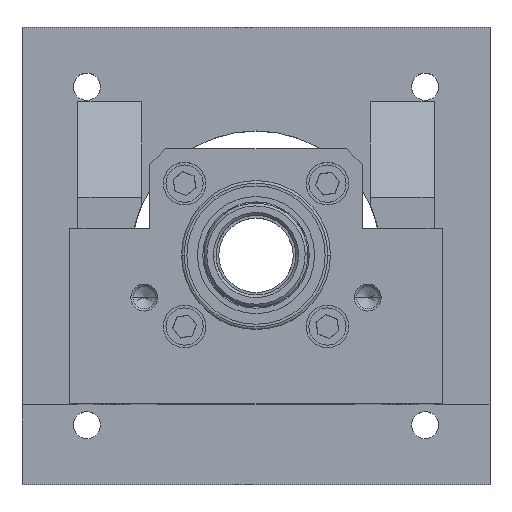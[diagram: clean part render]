
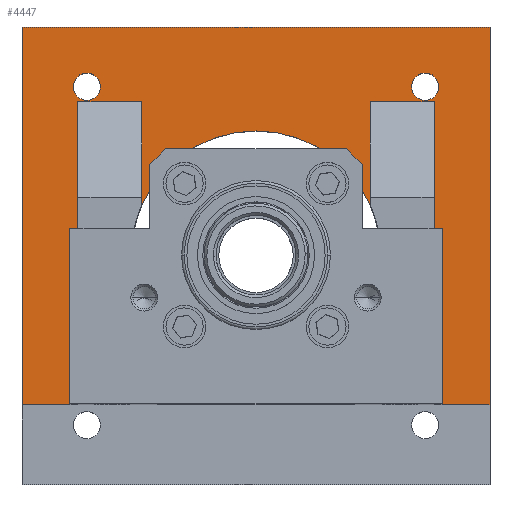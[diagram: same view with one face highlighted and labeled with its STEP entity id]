
A CAD part, top view. The second image highlights one B-rep face of the part: STEP entity #4447.
In plain terms, the highlighted planar face has unit normal (0, 0, 1).
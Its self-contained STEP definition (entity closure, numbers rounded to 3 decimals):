
#15 = CARTESIAN_POINT ( 'NONE',  ( -21.5, 4., -90. ) ) ;
#43 = AXIS2_PLACEMENT_3D ( 'NONE', #3079, #10730, #4167 ) ;
#122 = EDGE_CURVE ( 'NONE', #3607, #11266, #8755, .T. ) ;
#166 = LINE ( 'NONE', #5212, #11433 ) ;
#222 = DIRECTION ( 'NONE',  ( 1., 0., 0. ) ) ;
#224 = CARTESIAN_POINT ( 'NONE',  ( 33.5, -28., -90. ) ) ;
#288 = DIRECTION ( 'NONE',  ( 0., 0., 1. ) ) ;
#423 = VERTEX_POINT ( 'NONE', #11117 ) ;
#461 = CARTESIAN_POINT ( 'NONE',  ( -33.5, 29., -90. ) ) ;
#481 = CIRCLE ( 'NONE', #7280, 23.5 ) ;
#599 = EDGE_CURVE ( 'NONE', #4731, #2949, #481, .T. ) ;
#616 = CARTESIAN_POINT ( 'NONE',  ( 34.37, 31.82, -90. ) ) ;
#737 = FACE_OUTER_BOUND ( 'NONE', #1565, .T. ) ;
#887 = PLANE ( 'NONE',  #43 ) ;
#908 = VECTOR ( 'NONE', #12568, 1000. ) ;
#951 = ORIENTED_EDGE ( 'NONE', *, *, #7401, .T. ) ;
#985 = AXIS2_PLACEMENT_3D ( 'NONE', #6829, #288, #7951 ) ;
#1358 = VERTEX_POINT ( 'NONE', #2268 ) ;
#1380 = ORIENTED_EDGE ( 'NONE', *, *, #13454, .F. ) ;
#1441 = LINE ( 'NONE', #12707, #9840 ) ;
#1449 = ORIENTED_EDGE ( 'NONE', *, *, #5498, .T. ) ;
#1460 = CIRCLE ( 'NONE', #3128, 2.55 ) ;
#1517 = ORIENTED_EDGE ( 'NONE', *, *, #9359, .T. ) ;
#1540 = CARTESIAN_POINT ( 'NONE',  ( 44., -28., -90. ) ) ;
#1565 = EDGE_LOOP ( 'NONE', ( #13240, #5998, #12875, #1449, #1517, #10505, #1653, #6654, #4535, #951, #1380, #8035 ) ) ;
#1653 = ORIENTED_EDGE ( 'NONE', *, *, #2698, .F. ) ;
#2030 = VECTOR ( 'NONE', #7673, 1000. ) ;
#2065 = CARTESIAN_POINT ( 'NONE',  ( 33.5, 4., -90. ) ) ;
#2094 = VERTEX_POINT ( 'NONE', #5130 ) ;
#2160 = DIRECTION ( 'NONE',  ( 0., 0., 1. ) ) ;
#2268 = CARTESIAN_POINT ( 'NONE',  ( 21.5, 29., -90. ) ) ;
#2295 = CARTESIAN_POINT ( 'NONE',  ( -21.5, 9.487, -90. ) ) ;
#2489 = EDGE_CURVE ( 'NONE', #12465, #7242, #1460, .T. ) ;
#2608 = CARTESIAN_POINT ( 'NONE',  ( -34.37, 31.82, -90. ) ) ;
#2670 = EDGE_CURVE ( 'NONE', #6811, #3432, #13957, .T. ) ;
#2698 = EDGE_CURVE ( 'NONE', #2094, #6811, #7800, .T. ) ;
#2721 = VECTOR ( 'NONE', #5473, 1000. ) ;
#2730 = CARTESIAN_POINT ( 'NONE',  ( -33.5, 4., -90. ) ) ;
#2906 = CARTESIAN_POINT ( 'NONE',  ( -44., -28., -90. ) ) ;
#2949 = VERTEX_POINT ( 'NONE', #2295 ) ;
#3079 = CARTESIAN_POINT ( 'NONE',  ( -44., 43., -90. ) ) ;
#3100 = VECTOR ( 'NONE', #9729, 1000. ) ;
#3128 = AXIS2_PLACEMENT_3D ( 'NONE', #13324, #6754, #222 ) ;
#3432 = VERTEX_POINT ( 'NONE', #10963 ) ;
#3607 = VERTEX_POINT ( 'NONE', #11385 ) ;
#4060 = CARTESIAN_POINT ( 'NONE',  ( -44., 29., -90. ) ) ;
#4167 = DIRECTION ( 'NONE',  ( 1., 0., 0. ) ) ;
#4298 = DIRECTION ( 'NONE',  ( 0., 0., 1. ) ) ;
#4447 = ADVANCED_FACE ( 'NONE', ( #737, #6552, #6202 ), #887, .T. ) ;
#4535 = ORIENTED_EDGE ( 'NONE', *, *, #599, .F. ) ;
#4614 = CIRCLE ( 'NONE', #7008, 2.55 ) ;
#4625 = VECTOR ( 'NONE', #12978, 1000. ) ;
#4663 = CARTESIAN_POINT ( 'NONE',  ( 44., 43., -90. ) ) ;
#4731 = VERTEX_POINT ( 'NONE', #10073 ) ;
#4772 = EDGE_CURVE ( 'NONE', #11798, #9164, #11848, .T. ) ;
#4866 = VECTOR ( 'NONE', #6117, 1000. ) ;
#4952 = VERTEX_POINT ( 'NONE', #7476 ) ;
#5130 = CARTESIAN_POINT ( 'NONE',  ( -21.5, 29., -90. ) ) ;
#5212 = CARTESIAN_POINT ( 'NONE',  ( 44., -43., -90. ) ) ;
#5213 = VECTOR ( 'NONE', #7230, 1000. ) ;
#5320 = CARTESIAN_POINT ( 'NONE',  ( -44., 29., -90. ) ) ;
#5473 = DIRECTION ( 'NONE',  ( 0., 1., 0. ) ) ;
#5498 = EDGE_CURVE ( 'NONE', #423, #13185, #8606, .T. ) ;
#5639 = LINE ( 'NONE', #12012, #2721 ) ;
#5815 = CIRCLE ( 'NONE', #985, 2.55 ) ;
#5998 = ORIENTED_EDGE ( 'NONE', *, *, #7930, .T. ) ;
#6024 = EDGE_CURVE ( 'NONE', #4952, #11798, #11472, .T. ) ;
#6089 = ORIENTED_EDGE ( 'NONE', *, *, #14123, .F. ) ;
#6117 = DIRECTION ( 'NONE',  ( -1., 0., 0. ) ) ;
#6202 = FACE_BOUND ( 'NONE', #13427, .T. ) ;
#6274 = VERTEX_POINT ( 'NONE', #4663 ) ;
#6552 = FACE_BOUND ( 'NONE', #7196, .T. ) ;
#6654 = ORIENTED_EDGE ( 'NONE', *, *, #8041, .F. ) ;
#6720 = ORIENTED_EDGE ( 'NONE', *, *, #122, .F. ) ;
#6754 = DIRECTION ( 'NONE',  ( 0., 0., 1. ) ) ;
#6811 = VERTEX_POINT ( 'NONE', #461 ) ;
#6829 = CARTESIAN_POINT ( 'NONE',  ( 31.82, 31.82, -90. ) ) ;
#7008 = AXIS2_PLACEMENT_3D ( 'NONE', #10852, #4298, #11949 ) ;
#7076 = EDGE_CURVE ( 'NONE', #7242, #12465, #5815, .T. ) ;
#7167 = CARTESIAN_POINT ( 'NONE',  ( -44., -43., -90. ) ) ;
#7196 = EDGE_LOOP ( 'NONE', ( #6089, #6720 ) ) ;
#7230 = DIRECTION ( 'NONE',  ( 0., -1., 0. ) ) ;
#7242 = VERTEX_POINT ( 'NONE', #10598 ) ;
#7280 = AXIS2_PLACEMENT_3D ( 'NONE', #9985, #7837, #11014 ) ;
#7401 = EDGE_CURVE ( 'NONE', #4731, #1358, #5639, .T. ) ;
#7476 = CARTESIAN_POINT ( 'NONE',  ( 33.5, 29., -90. ) ) ;
#7569 = LINE ( 'NONE', #5320, #4625 ) ;
#7673 = DIRECTION ( 'NONE',  ( 0., 1., 0. ) ) ;
#7800 = LINE ( 'NONE', #4060, #4866 ) ;
#7837 = DIRECTION ( 'NONE',  ( 0., 0., 1. ) ) ;
#7842 = AXIS2_PLACEMENT_3D ( 'NONE', #8724, #2160, #9821 ) ;
#7930 = EDGE_CURVE ( 'NONE', #9164, #6274, #166, .T. ) ;
#7951 = DIRECTION ( 'NONE',  ( 1., 0., 0. ) ) ;
#8035 = ORIENTED_EDGE ( 'NONE', *, *, #6024, .T. ) ;
#8041 = EDGE_CURVE ( 'NONE', #2949, #2094, #11094, .T. ) ;
#8381 = DIRECTION ( 'NONE',  ( 1., 0., 0. ) ) ;
#8606 = LINE ( 'NONE', #7167, #11835 ) ;
#8724 = CARTESIAN_POINT ( 'NONE',  ( -31.82, 31.82, -90. ) ) ;
#8755 = CIRCLE ( 'NONE', #7842, 2.55 ) ;
#9164 = VERTEX_POINT ( 'NONE', #1540 ) ;
#9259 = CARTESIAN_POINT ( 'NONE',  ( -44., -28., -90. ) ) ;
#9281 = ORIENTED_EDGE ( 'NONE', *, *, #2489, .F. ) ;
#9359 = EDGE_CURVE ( 'NONE', #13185, #3432, #10864, .T. ) ;
#9729 = DIRECTION ( 'NONE',  ( 0., -1., 0. ) ) ;
#9821 = DIRECTION ( 'NONE',  ( 1., 0., 0. ) ) ;
#9840 = VECTOR ( 'NONE', #11613, 1000. ) ;
#9985 = CARTESIAN_POINT ( 'NONE',  ( 0., 0., -90. ) ) ;
#10073 = CARTESIAN_POINT ( 'NONE',  ( 21.5, 9.487, -90. ) ) ;
#10505 = ORIENTED_EDGE ( 'NONE', *, *, #2670, .F. ) ;
#10598 = CARTESIAN_POINT ( 'NONE',  ( 29.27, 31.82, -90. ) ) ;
#10730 = DIRECTION ( 'NONE',  ( 0., 0., 1. ) ) ;
#10852 = CARTESIAN_POINT ( 'NONE',  ( -31.82, 31.82, -90. ) ) ;
#10864 = LINE ( 'NONE', #2906, #13782 ) ;
#10963 = CARTESIAN_POINT ( 'NONE',  ( -33.5, -28., -90. ) ) ;
#11014 = DIRECTION ( 'NONE',  ( 1., 0., 0. ) ) ;
#11018 = EDGE_CURVE ( 'NONE', #6274, #423, #1441, .T. ) ;
#11094 = LINE ( 'NONE', #15, #2030 ) ;
#11117 = CARTESIAN_POINT ( 'NONE',  ( -44., 43., -90. ) ) ;
#11266 = VERTEX_POINT ( 'NONE', #2608 ) ;
#11385 = CARTESIAN_POINT ( 'NONE',  ( -29.27, 31.82, -90. ) ) ;
#11433 = VECTOR ( 'NONE', #11773, 1000. ) ;
#11472 = LINE ( 'NONE', #2065, #3100 ) ;
#11475 = CARTESIAN_POINT ( 'NONE',  ( -44., -28., -90. ) ) ;
#11613 = DIRECTION ( 'NONE',  ( -1., 0., 0. ) ) ;
#11773 = DIRECTION ( 'NONE',  ( 0., 1., 0. ) ) ;
#11798 = VERTEX_POINT ( 'NONE', #224 ) ;
#11835 = VECTOR ( 'NONE', #12607, 1000. ) ;
#11848 = LINE ( 'NONE', #11475, #908 ) ;
#11949 = DIRECTION ( 'NONE',  ( 1., 0., 0. ) ) ;
#12012 = CARTESIAN_POINT ( 'NONE',  ( 21.5, 4., -90. ) ) ;
#12465 = VERTEX_POINT ( 'NONE', #616 ) ;
#12568 = DIRECTION ( 'NONE',  ( 1., 0., 0. ) ) ;
#12607 = DIRECTION ( 'NONE',  ( 0., -1., 0. ) ) ;
#12707 = CARTESIAN_POINT ( 'NONE',  ( 44., 43., -90. ) ) ;
#12875 = ORIENTED_EDGE ( 'NONE', *, *, #11018, .T. ) ;
#12978 = DIRECTION ( 'NONE',  ( -1., 0., 0. ) ) ;
#13185 = VERTEX_POINT ( 'NONE', #9259 ) ;
#13240 = ORIENTED_EDGE ( 'NONE', *, *, #4772, .T. ) ;
#13324 = CARTESIAN_POINT ( 'NONE',  ( 31.82, 31.82, -90. ) ) ;
#13427 = EDGE_LOOP ( 'NONE', ( #13706, #9281 ) ) ;
#13454 = EDGE_CURVE ( 'NONE', #4952, #1358, #7569, .T. ) ;
#13706 = ORIENTED_EDGE ( 'NONE', *, *, #7076, .F. ) ;
#13782 = VECTOR ( 'NONE', #8381, 1000. ) ;
#13957 = LINE ( 'NONE', #2730, #5213 ) ;
#14123 = EDGE_CURVE ( 'NONE', #11266, #3607, #4614, .T. ) ;
